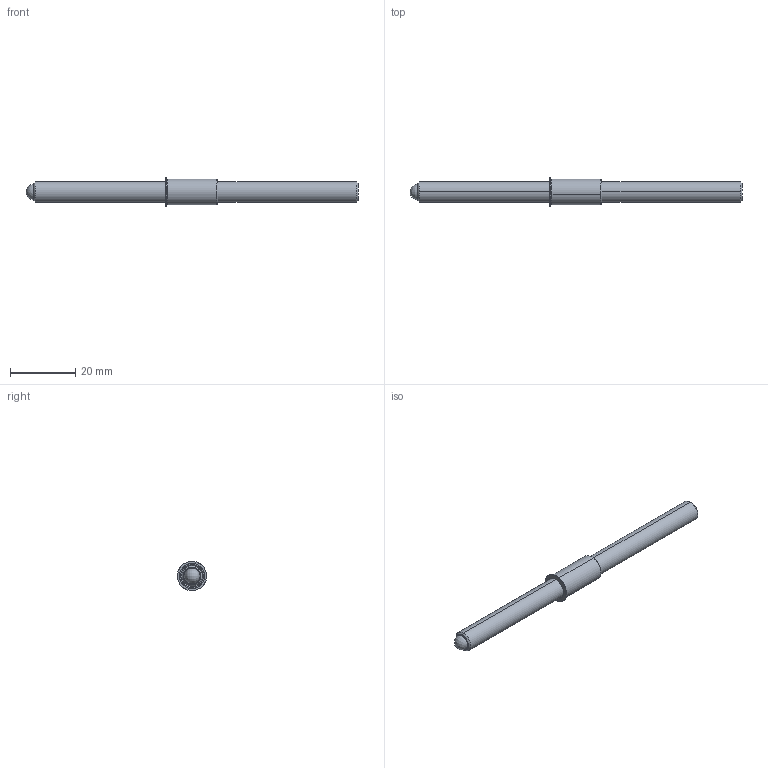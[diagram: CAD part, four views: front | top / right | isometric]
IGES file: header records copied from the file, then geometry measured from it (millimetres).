
Start section: SolidWorks IGES file using analytic representation for surfaces
Global section: file name: C:\Users\workpc\Desktop\KMA Solidworks\TSB250-80-4000_625-AA.IGS; native system: SolidWorks 2013; preprocessor: SolidWorks 2013; author: workpc; date: 130314.091937; units: inch
Bounding box: 101.6 x 8.94 x 8.94 mm (x, y, z)
Surface area: 2559.5 mm2 (no closed solid volume)
Topology: 0 solids, 0 shells, 33 faces, 406 edges, 402 vertices
Faces by surface type: revolution 22, bspline 11
